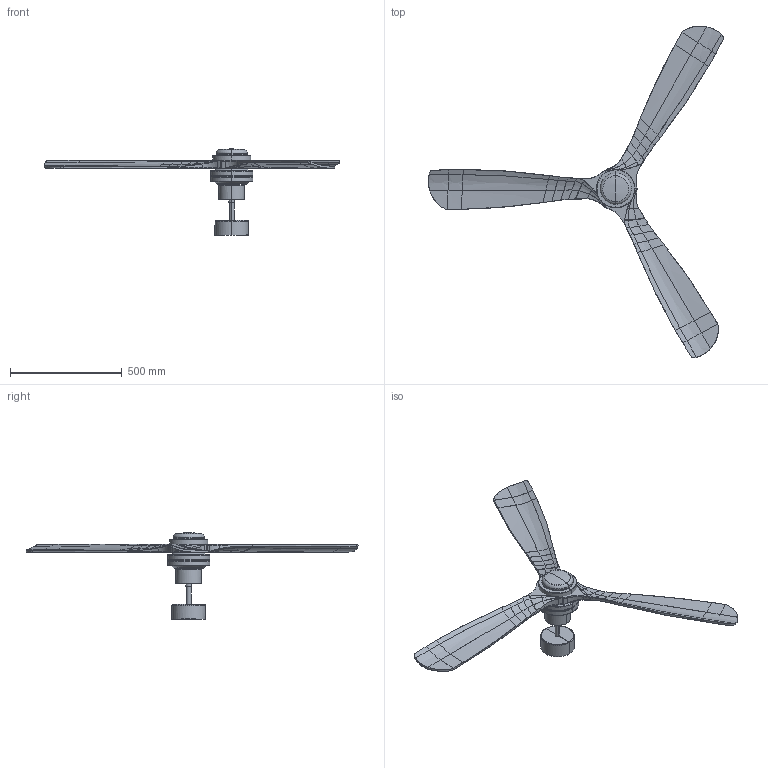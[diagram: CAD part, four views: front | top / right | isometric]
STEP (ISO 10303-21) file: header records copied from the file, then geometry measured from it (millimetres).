
FILE_DESCRIPTION(/* description */ (''),/* implementation_level */ '2;1');
FILE_NAME(/* name */ 'C:\Users\francosartori\Documents\Modelos\01_Digitalizados\0_LANTAU\03_Publicación\33463 - Vista 3D - {3D}.stp',/* time_stamp */ '2020-07-01T10:54:34+02:00',/* author */ ('FrancoSartori'),/* organization */ (''),/* preprocessor_version */ 'ST-DEVELOPER v18.1',/* originating_system */ 'AutoCAD Mechanical',/* authorisation */ '');
FILE_SCHEMA (('AUTOMOTIVE_DESIGN { 1 0 10303 214 3 1 1 }'));
Products named in the file (3): Product; 33463_33464_33504_33505_LANTAU - LANTAU-455939-_3D_; 33463_33505_LANTAU_lamp - LANTAU-455941-_3D_
Assembly tree (2 placements, depth 2):
  Product
    33463_33464_33504_33505_LANTAU - LANTAU-455939-_3D_
    33463_33505_LANTAU_lamp - LANTAU-455941-_3D_
Bounding box: 1321.18 x 1486.1 x 386.62 mm (x, y, z)
Volume: 1644528.7 mm3; surface area: 2149385 mm2
Topology: 212 solids, 272 shells, 1936 faces, 4322 edges, 2813 vertices
Faces by surface type: bspline 1194, plane 372, cylinder 298, torus 52, cone 16, sphere 4
Entity records: 75023 total; most frequent: CARTESIAN_POINT 39346, ORIENTED_EDGE 8257, DIRECTION 4302, EDGE_CURVE 4298, VERTEX_POINT 2813, B_SPLINE_CURVE_WITH_KNOTS 2047, EDGE_LOOP 1972, FACE_OUTER_BOUND 1936
